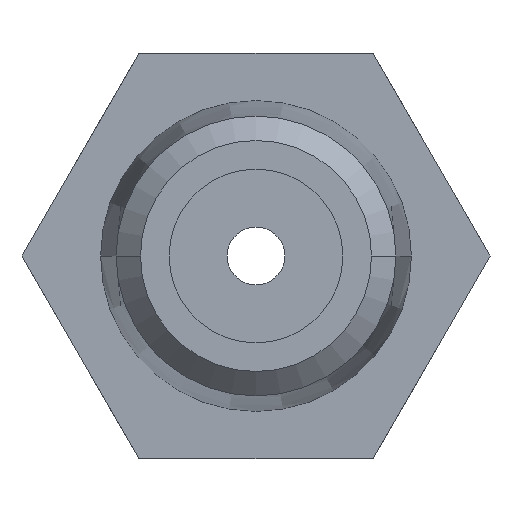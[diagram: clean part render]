
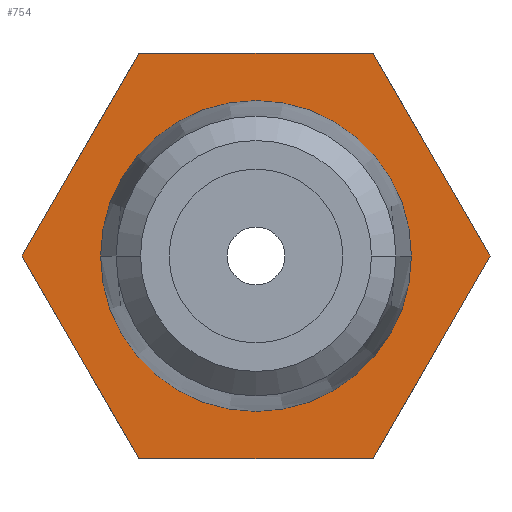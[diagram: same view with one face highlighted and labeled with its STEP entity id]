
A CAD part, front view. The second image highlights one B-rep face of the part: STEP entity #754.
In plain terms, the highlighted planar face has unit normal (0, -1, 0).
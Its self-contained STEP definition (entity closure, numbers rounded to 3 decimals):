
#178=DIRECTION('',(0.5,0.,0.866));
#179=VECTOR('',#178,4.041);
#180=CARTESIAN_POINT('',(-4.041,7.,0.));
#181=LINE('',#180,#179);
#206=DIRECTION('',(1.,0.,0.));
#207=VECTOR('',#206,4.041);
#208=CARTESIAN_POINT('',(-2.021,7.,3.5));
#209=LINE('',#208,#207);
#230=DIRECTION('',(0.5,0.,-0.866));
#231=VECTOR('',#230,4.041);
#232=CARTESIAN_POINT('',(2.021,7.,3.5));
#233=LINE('',#232,#231);
#257=DIRECTION('',(0.5,0.,0.866));
#258=VECTOR('',#257,4.041);
#259=CARTESIAN_POINT('',(2.021,7.,-3.5));
#260=LINE('',#259,#258);
#281=DIRECTION('',(0.5,0.,-0.866));
#282=VECTOR('',#281,4.041);
#283=CARTESIAN_POINT('',(-4.041,7.,0.));
#284=LINE('',#283,#282);
#289=CARTESIAN_POINT('',(0.,7.,0.));
#290=DIRECTION('',(0.,-1.,0.));
#291=DIRECTION('',(-1.,0.,0.));
#292=AXIS2_PLACEMENT_3D('',#289,#290,#291);
#294=CARTESIAN_POINT('',(0.,7.,0.));
#295=DIRECTION('',(0.,1.,0.));
#296=DIRECTION('',(-1.,0.,0.));
#297=AXIS2_PLACEMENT_3D('',#294,#295,#296);
#363=DIRECTION('',(1.,0.,0.));
#364=VECTOR('',#363,4.041);
#365=CARTESIAN_POINT('',(-2.021,7.,-3.5));
#366=LINE('',#365,#364);
#376=CARTESIAN_POINT('',(-2.683,7.,0.));
#378=VERTEX_POINT('',#376);
#384=CARTESIAN_POINT('',(2.683,7.,0.));
#386=VERTEX_POINT('',#384);
#389=CARTESIAN_POINT('',(-4.041,7.,0.));
#390=CARTESIAN_POINT('',(-2.021,7.,-3.5));
#391=VERTEX_POINT('',#389);
#392=VERTEX_POINT('',#390);
#397=CARTESIAN_POINT('',(2.021,7.,-3.5));
#398=CARTESIAN_POINT('',(4.041,7.,0.));
#399=VERTEX_POINT('',#397);
#400=VERTEX_POINT('',#398);
#401=CARTESIAN_POINT('',(-2.021,7.,3.5));
#402=VERTEX_POINT('',#401);
#403=CARTESIAN_POINT('',(2.021,7.,3.5));
#404=VERTEX_POINT('',#403);
#734=CARTESIAN_POINT('',(0.,7.,0.));
#735=DIRECTION('',(0.,-1.,0.));
#736=DIRECTION('',(-1.,0.,0.));
#737=AXIS2_PLACEMENT_3D('',#734,#735,#736);
#738=PLANE('',#737);
#739=ORIENTED_EDGE('',*,*,#727,.F.);
#740=ORIENTED_EDGE('',*,*,#654,.T.);
#741=ORIENTED_EDGE('',*,*,#669,.T.);
#742=ORIENTED_EDGE('',*,*,#683,.T.);
#743=ORIENTED_EDGE('',*,*,#698,.F.);
#745=ORIENTED_EDGE('',*,*,#744,.F.);
#746=EDGE_LOOP('',(#739,#740,#741,#742,#743,#745));
#747=FACE_OUTER_BOUND('',#746,.F.);
#749=ORIENTED_EDGE('',*,*,#748,.T.);
#751=ORIENTED_EDGE('',*,*,#750,.F.);
#752=EDGE_LOOP('',(#749,#751));
#753=FACE_BOUND('',#752,.F.);
#293=CIRCLE('',#292,2.683);
#298=CIRCLE('',#297,2.683);
#654=EDGE_CURVE('',#391,#402,#181,.T.);
#669=EDGE_CURVE('',#402,#404,#209,.T.);
#683=EDGE_CURVE('',#404,#400,#233,.T.);
#698=EDGE_CURVE('',#399,#400,#260,.T.);
#727=EDGE_CURVE('',#391,#392,#284,.T.);
#744=EDGE_CURVE('',#392,#399,#366,.T.);
#748=EDGE_CURVE('',#378,#386,#293,.T.);
#750=EDGE_CURVE('',#378,#386,#298,.T.);
#754=ADVANCED_FACE('',(#747,#753),#738,.T.);
